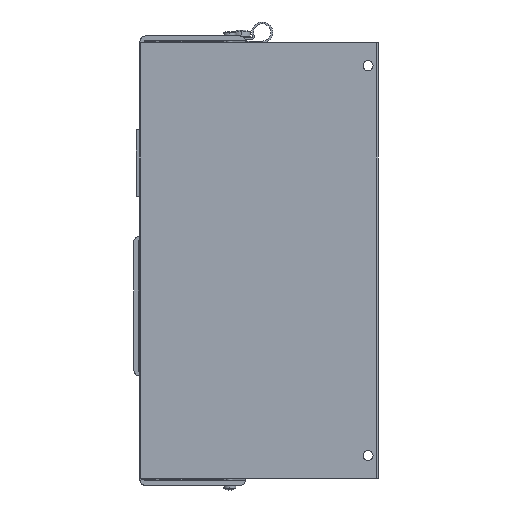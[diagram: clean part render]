
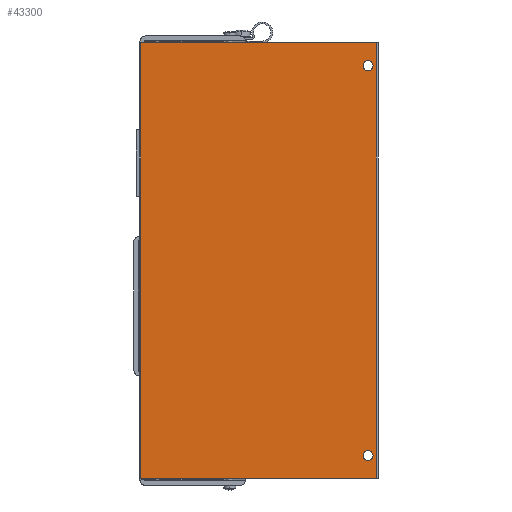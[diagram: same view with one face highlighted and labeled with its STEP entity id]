
A CAD part, left-side view. The second image highlights one B-rep face of the part: STEP entity #43300.
In plain terms, the highlighted planar face has unit normal (-1, 0, 0).
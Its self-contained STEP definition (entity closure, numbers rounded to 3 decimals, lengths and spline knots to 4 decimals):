
#7382=DIRECTION('',(0.,-1.,0.));
#7383=VECTOR('',#7382,4.232);
#7384=CARTESIAN_POINT('',(-4.71,1.3802,-7.81));
#7385=LINE('',#7384,#7383);
#18029=DIRECTION('',(0.,0.,1.));
#18030=VECTOR('',#18029,7.82);
#18031=CARTESIAN_POINT('',(-4.71,-2.8518,-7.81));
#18032=LINE('',#18031,#18030);
#18038=DIRECTION('',(0.,-1.,0.));
#18039=VECTOR('',#18038,4.232);
#18040=CARTESIAN_POINT('',(-4.71,1.3802,0.01));
#18041=LINE('',#18040,#18039);
#18042=CARTESIAN_POINT('',(-4.71,-2.7018,-0.4));
#18043=DIRECTION('',(1.,0.,0.));
#18044=DIRECTION('',(0.,1.,0.));
#18045=AXIS2_PLACEMENT_3D('',#18042,#18043,#18044);
#18047=CARTESIAN_POINT('',(-4.71,-2.7018,-0.4));
#18048=DIRECTION('',(1.,0.,0.));
#18049=DIRECTION('',(0.,-1.,0.));
#18050=AXIS2_PLACEMENT_3D('',#18047,#18048,#18049);
#18052=CARTESIAN_POINT('',(-4.71,-2.7018,-7.4));
#18053=DIRECTION('',(1.,0.,0.));
#18054=DIRECTION('',(0.,1.,0.));
#18055=AXIS2_PLACEMENT_3D('',#18052,#18053,#18054);
#18057=CARTESIAN_POINT('',(-4.71,-2.7018,-7.4));
#18058=DIRECTION('',(1.,0.,0.));
#18059=DIRECTION('',(0.,-1.,0.));
#18060=AXIS2_PLACEMENT_3D('',#18057,#18058,#18059);
#18062=DIRECTION('',(0.,0.,1.));
#18063=VECTOR('',#18062,7.82);
#18064=CARTESIAN_POINT('',(-4.71,1.3802,-7.81));
#18065=LINE('',#18064,#18063);
#21398=CARTESIAN_POINT('',(-4.71,-2.6118,-7.4));
#21399=CARTESIAN_POINT('',(-4.71,-2.7918,-7.4));
#21400=VERTEX_POINT('',#21398);
#21401=VERTEX_POINT('',#21399);
#21480=CARTESIAN_POINT('',(-4.71,-2.8518,-7.81));
#21481=VERTEX_POINT('',#21480);
#21482=CARTESIAN_POINT('',(-4.71,-2.8518,0.01));
#21483=VERTEX_POINT('',#21482);
#21492=CARTESIAN_POINT('',(-4.71,-2.6118,-0.4));
#21493=CARTESIAN_POINT('',(-4.71,-2.7918,-0.4));
#21494=VERTEX_POINT('',#21492);
#21495=VERTEX_POINT('',#21493);
#21524=CARTESIAN_POINT('',(-4.71,1.3802,-7.81));
#21525=CARTESIAN_POINT('',(-4.71,1.3802,0.01));
#21526=VERTEX_POINT('',#21524);
#21527=VERTEX_POINT('',#21525);
#43276=CARTESIAN_POINT('',(-4.71,-0.2498,0.01));
#43277=DIRECTION('',(-1.,0.,0.));
#43278=DIRECTION('',(0.,-1.,0.));
#43279=AXIS2_PLACEMENT_3D('',#43276,#43277,#43278);
#43280=PLANE('',#43279);
#43282=ORIENTED_EDGE('',*,*,#43281,.T.);
#43283=ORIENTED_EDGE('',*,*,#30705,.T.);
#43284=ORIENTED_EDGE('',*,*,#43270,.F.);
#43285=ORIENTED_EDGE('',*,*,#27576,.F.);
#43286=EDGE_LOOP('',(#43282,#43283,#43284,#43285));
#43287=FACE_OUTER_BOUND('',#43286,.F.);
#43289=ORIENTED_EDGE('',*,*,#43288,.F.);
#43291=ORIENTED_EDGE('',*,*,#43290,.F.);
#43292=EDGE_LOOP('',(#43289,#43291));
#43293=FACE_BOUND('',#43292,.F.);
#43295=ORIENTED_EDGE('',*,*,#43294,.F.);
#43297=ORIENTED_EDGE('',*,*,#43296,.F.);
#43298=EDGE_LOOP('',(#43295,#43297));
#43299=FACE_BOUND('',#43298,.F.);
#43300=ADVANCED_FACE('',(#43287,#43293,#43299),#43280,.T.);
#18046=CIRCLE('',#18045,0.09);
#18051=CIRCLE('',#18050,0.09);
#18056=CIRCLE('',#18055,0.09);
#18061=CIRCLE('',#18060,0.09);
#27576=EDGE_CURVE('',#21526,#21481,#7385,.T.);
#30705=EDGE_CURVE('',#21527,#21483,#18041,.T.);
#43270=EDGE_CURVE('',#21481,#21483,#18032,.T.);
#43281=EDGE_CURVE('',#21526,#21527,#18065,.T.);
#43288=EDGE_CURVE('',#21494,#21495,#18046,.T.);
#43290=EDGE_CURVE('',#21495,#21494,#18051,.T.);
#43294=EDGE_CURVE('',#21400,#21401,#18056,.T.);
#43296=EDGE_CURVE('',#21401,#21400,#18061,.T.);
